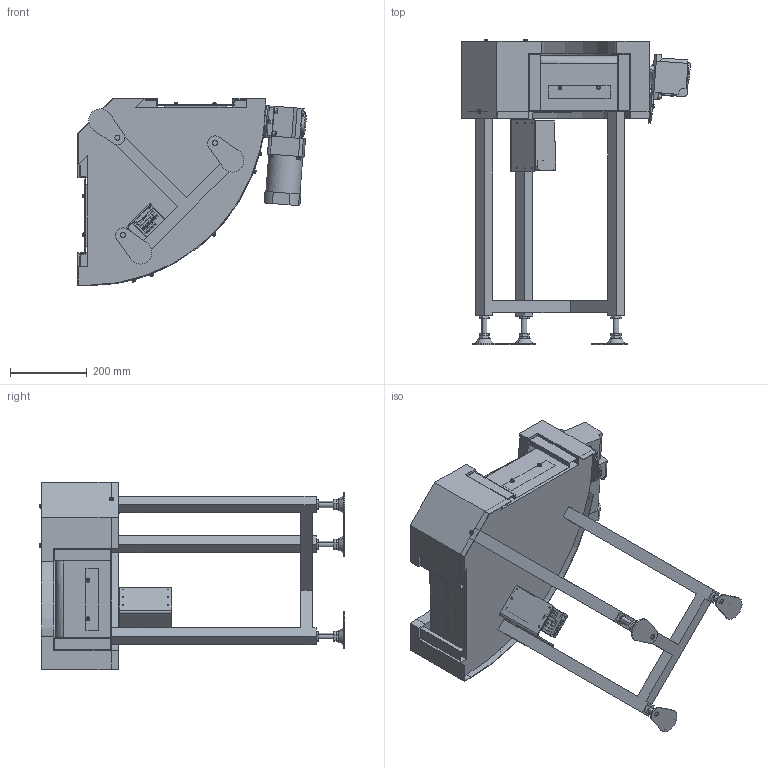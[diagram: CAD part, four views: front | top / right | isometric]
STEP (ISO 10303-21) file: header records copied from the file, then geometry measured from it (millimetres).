
FILE_DESCRIPTION( (''), '2;1');
FILE_NAME ('MBC2H-HS-309-200-90°-R-IVH-60-O.stp','2025-02-17T11:03:18',(''),(''),'spGate 20.6.2 (****-****-****-****)','','');
FILE_SCHEMA (('AUTOMOTIVE_DESIGN'));
Length unit declared in the file: millimetre
Products named in the file (36): NewModel; MBC2H-HS-309-200-90°-R-IVH-60-O; TEMP_X_T-prt0; TEMP_X_T-prt1; TEMP_X_T-prt2; TEMP_X_T-prt3; TEMP_X_T-prt4; TEMP_X_T-prt5; TEMP_X_T-prt6; TEMP_X_T-prt7; TEMP_X_T-prt8; TEMP_X_T-prt9; TEMP_X_T-prt10; TEMP_X_T-prt11; TEMP_X_T-prt12; TEMP_X_T-prt13; TEMP_X_T-prt14; TEMP_X_T-prt15; TEMP_X_T-prt16; TEMP_X_T-prt17; TEMP_X_T-prt18; TEMP_X_T-prt19; TEMP_X_T-prt20; TEMP_X_T-prt21; TEMP_X_T-prt22; TEMP_X_T-prt23; TEMP_X_T-prt24; TEMP_X_T-prt25; TEMP_X_T-prt26; TEMP_X_T-prt27; TEMP_X_T-prt28; TEMP_X_T-prt29; TEMP_X_T-prt30; TEMP_X_T-prt31; TEMP_X_T-prt32; TEMP_X_T-prt33
Assembly tree (35 placements, depth 3):
  NewModel
    MBC2H-HS-309-200-90°-R-IVH-60-O
      TEMP_X_T-prt0
      TEMP_X_T-prt1
      TEMP_X_T-prt2
      TEMP_X_T-prt3
      TEMP_X_T-prt4
      TEMP_X_T-prt5
      TEMP_X_T-prt6
      TEMP_X_T-prt7
      TEMP_X_T-prt8
      TEMP_X_T-prt9
      TEMP_X_T-prt10
      TEMP_X_T-prt11
      TEMP_X_T-prt12
      TEMP_X_T-prt13
      TEMP_X_T-prt14
      TEMP_X_T-prt15
      TEMP_X_T-prt16
      TEMP_X_T-prt17
      TEMP_X_T-prt18
      TEMP_X_T-prt19
      TEMP_X_T-prt20
      TEMP_X_T-prt21
      TEMP_X_T-prt22
      TEMP_X_T-prt23
      TEMP_X_T-prt24
      TEMP_X_T-prt25
      TEMP_X_T-prt26
      TEMP_X_T-prt27
      TEMP_X_T-prt28
      TEMP_X_T-prt29
      TEMP_X_T-prt30
      TEMP_X_T-prt31
      TEMP_X_T-prt32
      TEMP_X_T-prt33
Bounding box: 593.1 x 794.6 x 488.1 mm (x, y, z)
Volume: 24052788.9 mm3; surface area: 1910204.6 mm2
Topology: 34 solids, 34 shells, 1618 faces, 4019 edges, 2597 vertices
Faces by surface type: plane 1111, cylinder 322, bspline 179, sphere 6
Entity records: 85883 total; most frequent: CARTESIAN_POINT 15057, ORIENTED_EDGE 7990, DIRECTION 7293, COLOUR_RGB 5647, PRESENTATION_STYLE_ASSIGNMENT 5647, STYLED_ITEM 5647, EDGE_CURVE 3995, DRAUGHTING_PRE_DEFINED_CURVE_FONT 3995
